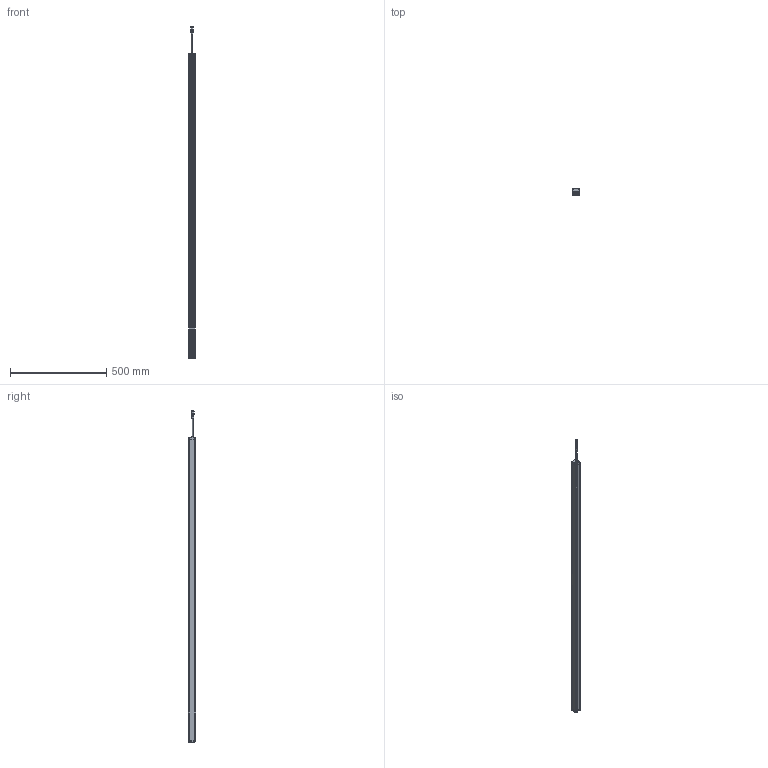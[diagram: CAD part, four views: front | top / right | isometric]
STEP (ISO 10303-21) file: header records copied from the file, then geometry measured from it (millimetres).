
FILE_DESCRIPTION((''),'2;1');
FILE_NAME('PRT0039','2026-03-31T13:52:37',('Administrator'),(''),'CREO PARAMETRIC BY PTC INC, 2016510','CREO PARAMETRIC BY PTC INC, 2016510','');
FILE_SCHEMA(('AUTOMOTIVE_DESIGN { 1 0 10303 214 1 1 1 1 }'));
Length unit declared in the file: millimetre
Products named in the file (1): PRT0039
Bounding box: 33 x 38 x 1721.9 mm (x, y, z)
Surface area: 342499.3 mm2 (no closed solid volume)
Topology: 0 solids, 12 shells, 801 faces, 2107 edges, 1329 vertices
Faces by surface type: plane 384, cylinder 229, extrusion 86, sphere 36, torus 34, cone 28, bspline 4
Entity records: 31375 total; most frequent: CARTESIAN_POINT 5885, ORIENTED_EDGE 4118, DIRECTION 3907, EDGE_CURVE 2059, VERTEX_POINT 1329, AXIS2_PLACEMENT_3D 1325, VECTOR 1257, LINE 1171
